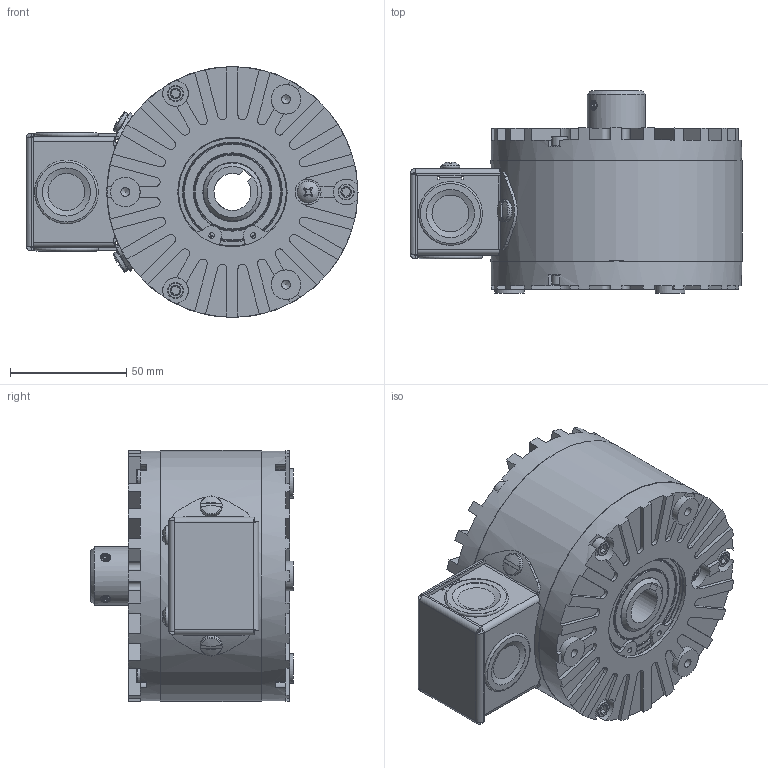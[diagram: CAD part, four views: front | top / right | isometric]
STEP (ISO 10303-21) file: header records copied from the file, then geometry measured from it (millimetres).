
FILE_DESCRIPTION(/* description */ ('STEP AP214'),/* implementation_level */ '2;1');
FILE_NAME(/* name */ '5MB90S_stp.step',/* time_stamp */ '2026-05-12T14:10:15-05:00',/* author */ (''),/* organization */ (''),/* preprocessor_version */ 'ST-DEVELOPER v20.1',/* originating_system */ 'Autodesk Translation Framework v15.8.0.0',/* authorisation */ '');
FILE_SCHEMA (('AUTOMOTIVE_DESIGN { 1 0 10303 214 3 1 1 }'));
Length unit declared in the file: inch
Products named in the file (1): 5MB90S_asm_stp
Bounding box: 142.7 x 87.05 x 107.95 mm (x, y, z)
Volume: 381903.2 mm3; surface area: 132119.1 mm2
Topology: 3 solids, 21 shells, 938 faces, 2328 edges, 1492 vertices
Faces by surface type: plane 478, cylinder 240, cone 121, torus 53, bspline 39, sphere 7
Full cylindrical faces by diameter (mm): 2.362 x4, 3.251 x1, 3.306 x2, 3.454 x10, 3.795 x2, 3.797 x4, 4.039 x2, 4.166 x10, 5.207 x1, 5.537 x6, 6.35 x2, 6.858 x6, 9.474 x3, 11.112 x1, 12.7 x4, 22.225 x3, 23.52 x4, 25.011 x7, 32.318 x8, 32.868 x4, 34.925 x2, 38.1 x2, 41.83 x8, 44.45 x2, 47 x6, 49.835 x2, 50.013 x2, 68.402 x1, 87.63 x1, 107.569 x2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
Entity records: 30823 total; most frequent: CARTESIAN_POINT 8091, DIRECTION 4908, ORIENTED_EDGE 4644, EDGE_CURVE 2322, AXIS2_PLACEMENT_3D 1881, VERTEX_POINT 1500, LINE 1146, VECTOR 1146
